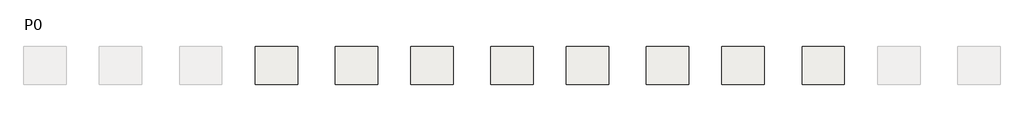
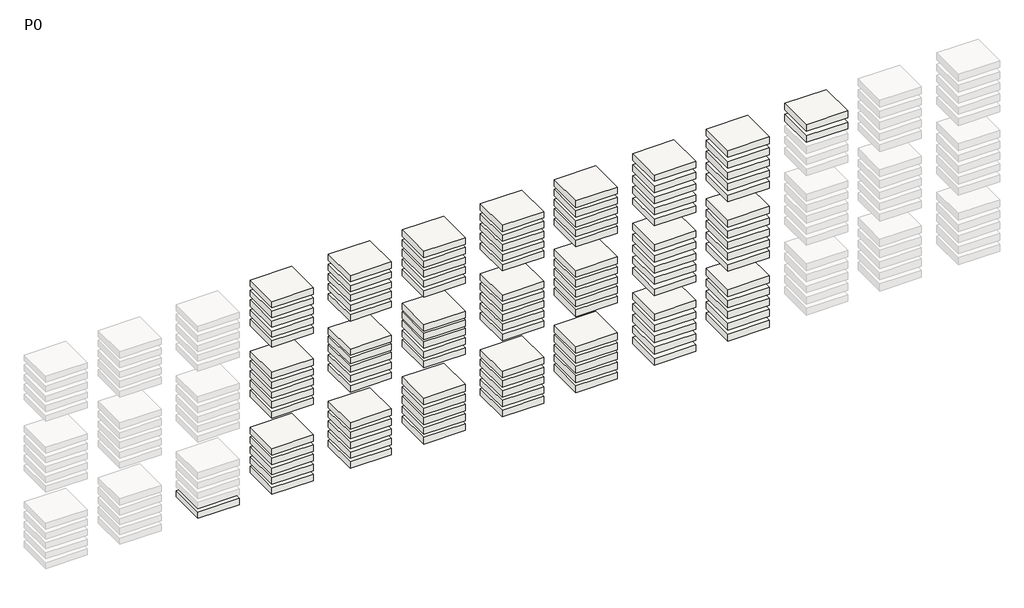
# One storey, part 9 of 11: 108 slabs.
"""IFC4 building model written with IfcOpenShell, lengths in millimetres."""

from ifc_helpers import new_model, si_unit, frame, origin, place, context, project, spatial, polyline, outline, extrude, element, save

model = new_model("IFC4")

# Units and contexts
model_context = context("Model", 3, world=origin())
ifc_project = project(units=[si_unit("LENGTHUNIT", "METRE", prefix="MILLI")], contexts=[model_context])

# Site, building, storey
site = spatial("IfcSite", under=ifc_project)
building = spatial("IfcBuilding", under=site)
storey = spatial("IfcBuildingStorey", under=building, Name="P0", Elevation=0.0)

# Slabs
placement = place(None, origin())
element("IfcSlab", 1, ObjectType="NNEH34 H7", at=placement, inside=storey, context=model_context, shape_type="SweptSolid", body=[
    extrude(outline(polyline([(251510.1564071, 1686.0689128), (251510.1564071, -1013.9310872), (248510.1564071, -1013.9310872), (248510.1564071, 1686.0689128), (251510.1564071, 1686.0689128)])), frame((0.0, 0.0, -21729.5323192), z_axis=(0.0, 0.0, 1.0), x_axis=(1.0, 0.0, 0.0)), (0.0, 0.0, 1.0), 468.0),
])
element("IfcSlab", 2, ObjectType="NNEH34 H8", at=placement, inside=storey, context=model_context, shape_type="SweptSolid", body=[
    extrude(outline(polyline([(256850.1564071, 1686.0689128), (256850.1564071, -1013.9310872), (253850.1564071, -1013.9310872), (253850.1564071, 1686.0689128), (256850.1564071, 1686.0689128)])), frame((0.0, 0.0, -7499.5323192), z_axis=(0.0, 0.0, 1.0), x_axis=(1.0, 0.0, 0.0)), (0.0, 0.0, 1.0), 478.0),
])
element("IfcSlab", 3, ObjectType="NNEH34 H8", at=placement, inside=storey, context=model_context, shape_type="SweptSolid", body=[
    extrude(outline(polyline([(256850.1564071, 1686.0689128), (256850.1564071, -1013.9310872), (253850.1564071, -1013.9310872), (253850.1564071, 1686.0689128), (256850.1564071, 1686.0689128)])), frame((0.0, 0.0, -8249.5323192), z_axis=(0.0, 0.0, 1.0), x_axis=(1.0, 0.0, 0.0)), (0.0, 0.0, 1.0), 478.0),
])
element("IfcSlab", 4, ObjectType="NNEH34 H8", at=placement, inside=storey, context=model_context, shape_type="SweptSolid", body=[
    extrude(outline(polyline([(256850.1564071, 1686.0689128), (256850.1564071, -1013.9310872), (253850.1564071, -1013.9310872), (253850.1564071, 1686.0689128), (256850.1564071, 1686.0689128)])), frame((0.0, 0.0, -8999.5323192), z_axis=(0.0, 0.0, 1.0), x_axis=(1.0, 0.0, 0.0)), (0.0, 0.0, 1.0), 478.0),
])
element("IfcSlab", 5, ObjectType="NNEH34 H8", at=placement, inside=storey, context=model_context, shape_type="SweptSolid", body=[
    extrude(outline(polyline([(256850.1564071, 1686.0689128), (256850.1564071, -1013.9310872), (253850.1564071, -1013.9310872), (253850.1564071, 1686.0689128), (256850.1564071, 1686.0689128)])), frame((0.0, 0.0, -9749.5323192), z_axis=(0.0, 0.0, 1.0), x_axis=(1.0, 0.0, 0.0)), (0.0, 0.0, 1.0), 478.0),
])
element("IfcSlab", 6, ObjectType="NNEH34 H8", at=placement, inside=storey, context=model_context, shape_type="SweptSolid", body=[
    extrude(outline(polyline([(256850.1564071, 1686.0689128), (256850.1564071, -1013.9310872), (253850.1564071, -1013.9310872), (253850.1564071, 1686.0689128), (256850.1564071, 1686.0689128)])), frame((0.0, 0.0, -10499.5324008), z_axis=(0.0, 0.0, 1.0), x_axis=(1.0, 0.0, 0.0)), (0.0, 0.0, 1.0), 478.0),
])
element("IfcSlab", 7, ObjectType="NNEH34 H9", at=placement, inside=storey, context=model_context, shape_type="SweptSolid", body=[
    extrude(outline(polyline([(256850.1564071, 1686.0689128), (256850.1564071, -1013.9310872), (253850.1564071, -1013.9310872), (253850.1564071, 1686.0689128), (256850.1564071, 1686.0689128)])), frame((0.0, 0.0, -12929.5322376), z_axis=(0.0, 0.0, 1.0), x_axis=(1.0, 0.0, 0.0)), (0.0, 0.0, 1.0), 488.0),
])
element("IfcSlab", 8, ObjectType="NNEH34 H9", at=placement, inside=storey, context=model_context, shape_type="SweptSolid", body=[
    extrude(outline(polyline([(256850.1564071, 1686.0689128), (256850.1564071, -1013.9310872), (253850.1564071, -1013.9310872), (253850.1564071, 1686.0689128), (256850.1564071, 1686.0689128)])), frame((0.0, 0.0, -13679.5322376), z_axis=(0.0, 0.0, 1.0), x_axis=(1.0, 0.0, 0.0)), (0.0, 0.0, 1.0), 488.0),
])
element("IfcSlab", 9, ObjectType="NNEH34 H9", at=placement, inside=storey, context=model_context, shape_type="SweptSolid", body=[
    extrude(outline(polyline([(256850.1564071, 1686.0689128), (256850.1564071, -1013.9310872), (253850.1564071, -1013.9310872), (253850.1564071, 1686.0689128), (256850.1564071, 1686.0689128)])), frame((0.0, 0.0, -14429.5322376), z_axis=(0.0, 0.0, 1.0), x_axis=(1.0, 0.0, 0.0)), (0.0, 0.0, 1.0), 488.0),
])
element("IfcSlab", 10, ObjectType="NNEH34 H9", at=placement, inside=storey, context=model_context, shape_type="SweptSolid", body=[
    extrude(outline(polyline([(256850.1564071, 1686.0689128), (256850.1564071, -1013.9310872), (253850.1564071, -1013.9310872), (253850.1564071, 1686.0689128), (256850.1564071, 1686.0689128)])), frame((0.0, 0.0, -15179.5322376), z_axis=(0.0, 0.0, 1.0), x_axis=(1.0, 0.0, 0.0)), (0.0, 0.0, 1.0), 488.0),
])
element("IfcSlab", 11, ObjectType="NNEH34 H9", at=placement, inside=storey, context=model_context, shape_type="SweptSolid", body=[
    extrude(outline(polyline([(256850.1564071, 1686.0689128), (256850.1564071, -1013.9310872), (253850.1564071, -1013.9310872), (253850.1564071, 1686.0689128), (256850.1564071, 1686.0689128)])), frame((0.0, 0.0, -15929.5322376), z_axis=(0.0, 0.0, 1.0), x_axis=(1.0, 0.0, 0.0)), (0.0, 0.0, 1.0), 488.0),
])
element("IfcSlab", 12, ObjectType="NNEH34 H10", at=placement, inside=storey, context=model_context, shape_type="SweptSolid", body=[
    extrude(outline(polyline([(256850.1564071, 1686.0689128), (256850.1564071, -1013.9310872), (253850.1564071, -1013.9310872), (253850.1564071, 1686.0689128), (256850.1564071, 1686.0689128)])), frame((0.0, 0.0, -18759.5323192), z_axis=(0.0, 0.0, 1.0), x_axis=(1.0, 0.0, 0.0)), (0.0, 0.0, 1.0), 498.0),
])
element("IfcSlab", 13, ObjectType="NNEH34 H10", at=placement, inside=storey, context=model_context, shape_type="SweptSolid", body=[
    extrude(outline(polyline([(256850.1564071, 1686.0689128), (256850.1564071, -1013.9310872), (253850.1564071, -1013.9310872), (253850.1564071, 1686.0689128), (256850.1564071, 1686.0689128)])), frame((0.0, 0.0, -19509.5323192), z_axis=(0.0, 0.0, 1.0), x_axis=(1.0, 0.0, 0.0)), (0.0, 0.0, 1.0), 498.0),
])
element("IfcSlab", 14, ObjectType="NNEH34 H10", at=placement, inside=storey, context=model_context, shape_type="SweptSolid", body=[
    extrude(outline(polyline([(256850.1564071, 1686.0689128), (256850.1564071, -1013.9310872), (253850.1564071, -1013.9310872), (253850.1564071, 1686.0689128), (256850.1564071, 1686.0689128)])), frame((0.0, 0.0, -20259.5323192), z_axis=(0.0, 0.0, 1.0), x_axis=(1.0, 0.0, 0.0)), (0.0, 0.0, 1.0), 498.0),
])
element("IfcSlab", 15, ObjectType="NNEH34 H10", at=placement, inside=storey, context=model_context, shape_type="SweptSolid", body=[
    extrude(outline(polyline([(256850.1564071, 1686.0689128), (256850.1564071, -1013.9310872), (253850.1564071, -1013.9310872), (253850.1564071, 1686.0689128), (256850.1564071, 1686.0689128)])), frame((0.0, 0.0, -21009.5323192), z_axis=(0.0, 0.0, 1.0), x_axis=(1.0, 0.0, 0.0)), (0.0, 0.0, 1.0), 498.0),
])
element("IfcSlab", 16, ObjectType="NNEH34 H10", at=placement, inside=storey, context=model_context, shape_type="SweptSolid", body=[
    extrude(outline(polyline([(256850.1564071, 1686.0689128), (256850.1564071, -1013.9310872), (253850.1564071, -1013.9310872), (253850.1564071, 1686.0689128), (256850.1564071, 1686.0689128)])), frame((0.0, 0.0, -21759.5323192), z_axis=(0.0, 0.0, 1.0), x_axis=(1.0, 0.0, 0.0)), (0.0, 0.0, 1.0), 498.0),
])
element("IfcSlab", 17, ObjectType="NNEH36 H5", at=placement, inside=storey, context=model_context, shape_type="SweptSolid", body=[
    extrude(outline(polyline([(262510.1564071, 1686.0689128), (262510.1564071, -1013.9310872), (259510.1564071, -1013.9310872), (259510.1564071, 1686.0689128), (262510.1564071, 1686.0689128)])), frame((0.0, 0.0, -7489.5324008), z_axis=(0.0, 0.0, 1.0), x_axis=(1.0, 0.0, 0.0)), (0.0, 0.0, 1.0), 468.0),
])
element("IfcSlab", 18, ObjectType="NNEH36 H5", at=placement, inside=storey, context=model_context, shape_type="SweptSolid", body=[
    extrude(outline(polyline([(262510.1564071, 1686.0689128), (262510.1564071, -1013.9310872), (259510.1564071, -1013.9310872), (259510.1564071, 1686.0689128), (262510.1564071, 1686.0689128)])), frame((0.0, 0.0, -8239.5323192), z_axis=(0.0, 0.0, 1.0), x_axis=(1.0, 0.0, 0.0)), (0.0, 0.0, 1.0), 468.0),
])
element("IfcSlab", 19, ObjectType="NNEH36 H5", at=placement, inside=storey, context=model_context, shape_type="SweptSolid", body=[
    extrude(outline(polyline([(262510.1564071, 1686.0689128), (262510.1564071, -1013.9310872), (259510.1564071, -1013.9310872), (259510.1564071, 1686.0689128), (262510.1564071, 1686.0689128)])), frame((0.0, 0.0, -8989.5323192), z_axis=(0.0, 0.0, 1.0), x_axis=(1.0, 0.0, 0.0)), (0.0, 0.0, 1.0), 468.0),
])
element("IfcSlab", 20, ObjectType="NNEH36 H5", at=placement, inside=storey, context=model_context, shape_type="SweptSolid", body=[
    extrude(outline(polyline([(262510.1564071, 1686.0689128), (262510.1564071, -1013.9310872), (259510.1564071, -1013.9310872), (259510.1564071, 1686.0689128), (262510.1564071, 1686.0689128)])), frame((0.0, 0.0, -9739.5323192), z_axis=(0.0, 0.0, 1.0), x_axis=(1.0, 0.0, 0.0)), (0.0, 0.0, 1.0), 468.0),
])
element("IfcSlab", 21, ObjectType="NNEH36 H5", at=placement, inside=storey, context=model_context, shape_type="SweptSolid", body=[
    extrude(outline(polyline([(262510.1564071, 1686.0689128), (262510.1564071, -1013.9310872), (259510.1564071, -1013.9310872), (259510.1564071, 1686.0689128), (262510.1564071, 1686.0689128)])), frame((0.0, 0.0, -10489.5324008), z_axis=(0.0, 0.0, 1.0), x_axis=(1.0, 0.0, 0.0)), (0.0, 0.0, 1.0), 468.0),
])
element("IfcSlab", 22, ObjectType="NNEH36 H6", at=placement, inside=storey, context=model_context, shape_type="SweptSolid", body=[
    extrude(outline(polyline([(262510.1564071, 1686.0689128), (262510.1564071, -1013.9310872), (259510.1564071, -1013.9310872), (259510.1564071, 1686.0689128), (262510.1564071, 1686.0689128)])), frame((0.0, 0.0, -13119.5322376), z_axis=(0.0, 0.0, 1.0), x_axis=(1.0, 0.0, 0.0)), (0.0, 0.0, 1.0), 478.0),
])
element("IfcSlab", 23, ObjectType="NNEH36 H6", at=placement, inside=storey, context=model_context, shape_type="SweptSolid", body=[
    extrude(outline(polyline([(262510.1564071, 1686.0689128), (262510.1564071, -1013.9310872), (259510.1564071, -1013.9310872), (259510.1564071, 1686.0689128), (262510.1564071, 1686.0689128)])), frame((0.0, 0.0, -13769.5322376), z_axis=(0.0, 0.0, 1.0), x_axis=(1.0, 0.0, 0.0)), (0.0, 0.0, 1.0), 478.0),
])
element("IfcSlab", 24, ObjectType="NNEH36 H6", at=placement, inside=storey, context=model_context, shape_type="SweptSolid", body=[
    extrude(outline(polyline([(262510.1564071, 1686.0689128), (262510.1564071, -1013.9310872), (259510.1564071, -1013.9310872), (259510.1564071, 1686.0689128), (262510.1564071, 1686.0689128)])), frame((0.0, 0.0, -14419.5322376), z_axis=(0.0, 0.0, 1.0), x_axis=(1.0, 0.0, 0.0)), (0.0, 0.0, 1.0), 478.0),
])
element("IfcSlab", 25, ObjectType="NNEH36 H6", at=placement, inside=storey, context=model_context, shape_type="SweptSolid", body=[
    extrude(outline(polyline([(262510.1564071, 1686.0689128), (262510.1564071, -1013.9310872), (259510.1564071, -1013.9310872), (259510.1564071, 1686.0689128), (262510.1564071, 1686.0689128)])), frame((0.0, 0.0, -15169.5322376), z_axis=(0.0, 0.0, 1.0), x_axis=(1.0, 0.0, 0.0)), (0.0, 0.0, 1.0), 478.0),
])
element("IfcSlab", 26, ObjectType="NNEH36 H6", at=placement, inside=storey, context=model_context, shape_type="SweptSolid", body=[
    extrude(outline(polyline([(262510.1564071, 1686.0689128), (262510.1564071, -1013.9310872), (259510.1564071, -1013.9310872), (259510.1564071, 1686.0689128), (262510.1564071, 1686.0689128)])), frame((0.0, 0.0, -15919.5322376), z_axis=(0.0, 0.0, 1.0), x_axis=(1.0, 0.0, 0.0)), (0.0, 0.0, 1.0), 478.0),
])
element("IfcSlab", 27, ObjectType="NNEH36 H7", at=placement, inside=storey, context=model_context, shape_type="SweptSolid", body=[
    extrude(outline(polyline([(262510.1564071, 1686.0689128), (262510.1564071, -1013.9310872), (259510.1564071, -1013.9310872), (259510.1564071, 1686.0689128), (262510.1564071, 1686.0689128)])), frame((0.0, 0.0, -18749.5323192), z_axis=(0.0, 0.0, 1.0), x_axis=(1.0, 0.0, 0.0)), (0.0, 0.0, 1.0), 488.0),
])
element("IfcSlab", 28, ObjectType="NNEH36 H7", at=placement, inside=storey, context=model_context, shape_type="SweptSolid", body=[
    extrude(outline(polyline([(262510.1564071, 1686.0689128), (262510.1564071, -1013.9310872), (259510.1564071, -1013.9310872), (259510.1564071, 1686.0689128), (262510.1564071, 1686.0689128)])), frame((0.0, 0.0, -19499.5323192), z_axis=(0.0, 0.0, 1.0), x_axis=(1.0, 0.0, 0.0)), (0.0, 0.0, 1.0), 488.0),
])
element("IfcSlab", 29, ObjectType="NNEH36 H7", at=placement, inside=storey, context=model_context, shape_type="SweptSolid", body=[
    extrude(outline(polyline([(262510.1564071, 1686.0689128), (262510.1564071, -1013.9310872), (259510.1564071, -1013.9310872), (259510.1564071, 1686.0689128), (262510.1564071, 1686.0689128)])), frame((0.0, 0.0, -20249.5323192), z_axis=(0.0, 0.0, 1.0), x_axis=(1.0, 0.0, 0.0)), (0.0, 0.0, 1.0), 488.0),
])
element("IfcSlab", 30, ObjectType="NNEH36 H7", at=placement, inside=storey, context=model_context, shape_type="SweptSolid", body=[
    extrude(outline(polyline([(262510.1564071, 1686.0689128), (262510.1564071, -1013.9310872), (259510.1564071, -1013.9310872), (259510.1564071, 1686.0689128), (262510.1564071, 1686.0689128)])), frame((0.0, 0.0, -20999.5323192), z_axis=(0.0, 0.0, 1.0), x_axis=(1.0, 0.0, 0.0)), (0.0, 0.0, 1.0), 488.0),
])
element("IfcSlab", 31, ObjectType="NNEH36 H7", at=placement, inside=storey, context=model_context, shape_type="SweptSolid", body=[
    extrude(outline(polyline([(262510.1564071, 1686.0689128), (262510.1564071, -1013.9310872), (259510.1564071, -1013.9310872), (259510.1564071, 1686.0689128), (262510.1564071, 1686.0689128)])), frame((0.0, 0.0, -21749.5323192), z_axis=(0.0, 0.0, 1.0), x_axis=(1.0, 0.0, 0.0)), (0.0, 0.0, 1.0), 488.0),
])
element("IfcSlab", 32, ObjectType="NNEH36 H8", at=placement, inside=storey, context=model_context, shape_type="SweptSolid", body=[
    extrude(outline(polyline([(267850.1564071, 1686.0689128), (267850.1564071, -1013.9310872), (264850.1564071, -1013.9310872), (264850.1564071, 1686.0689128), (267850.1564071, 1686.0689128)])), frame((0.0, 0.0, -7519.5323192), z_axis=(0.0, 0.0, 1.0), x_axis=(1.0, 0.0, 0.0)), (0.0, 0.0, 1.0), 498.0),
])
element("IfcSlab", 33, ObjectType="NNEH36 H8", at=placement, inside=storey, context=model_context, shape_type="SweptSolid", body=[
    extrude(outline(polyline([(267850.1564071, 1686.0689128), (267850.1564071, -1013.9310872), (264850.1564071, -1013.9310872), (264850.1564071, 1686.0689128), (267850.1564071, 1686.0689128)])), frame((0.0, 0.0, -8269.5323192), z_axis=(0.0, 0.0, 1.0), x_axis=(1.0, 0.0, 0.0)), (0.0, 0.0, 1.0), 498.0),
])
element("IfcSlab", 34, ObjectType="NNEH36 H8", at=placement, inside=storey, context=model_context, shape_type="SweptSolid", body=[
    extrude(outline(polyline([(267850.1564071, 1686.0689128), (267850.1564071, -1013.9310872), (264850.1564071, -1013.9310872), (264850.1564071, 1686.0689128), (267850.1564071, 1686.0689128)])), frame((0.0, 0.0, -9019.5323192), z_axis=(0.0, 0.0, 1.0), x_axis=(1.0, 0.0, 0.0)), (0.0, 0.0, 1.0), 498.0),
])
element("IfcSlab", 35, ObjectType="NNEH36 H8", at=placement, inside=storey, context=model_context, shape_type="SweptSolid", body=[
    extrude(outline(polyline([(267850.1564071, 1686.0689128), (267850.1564071, -1013.9310872), (264850.1564071, -1013.9310872), (264850.1564071, 1686.0689128), (267850.1564071, 1686.0689128)])), frame((0.0, 0.0, -9769.5323192), z_axis=(0.0, 0.0, 1.0), x_axis=(1.0, 0.0, 0.0)), (0.0, 0.0, 1.0), 498.0),
])
element("IfcSlab", 36, ObjectType="NNEH36 H8", at=placement, inside=storey, context=model_context, shape_type="SweptSolid", body=[
    extrude(outline(polyline([(267850.1564071, 1686.0689128), (267850.1564071, -1013.9310872), (264850.1564071, -1013.9310872), (264850.1564071, 1686.0689128), (267850.1564071, 1686.0689128)])), frame((0.0, 0.0, -10519.5324008), z_axis=(0.0, 0.0, 1.0), x_axis=(1.0, 0.0, 0.0)), (0.0, 0.0, 1.0), 498.0),
])
element("IfcSlab", 37, ObjectType="NNEH36 H9", at=placement, inside=storey, context=model_context, shape_type="SweptSolid", body=[
    extrude(outline(polyline([(267850.1564071, 1686.0689128), (267850.1564071, -1013.9310872), (264850.1564071, -1013.9310872), (264850.1564071, 1686.0689128), (267850.1564071, 1686.0689128)])), frame((0.0, 0.0, -13149.5322376), z_axis=(0.0, 0.0, 1.0), x_axis=(1.0, 0.0, 0.0)), (0.0, 0.0, 1.0), 508.0),
])
element("IfcSlab", 38, ObjectType="NNEH36 H9", at=placement, inside=storey, context=model_context, shape_type="SweptSolid", body=[
    extrude(outline(polyline([(267850.1564071, 1686.0689128), (267850.1564071, -1013.9310872), (264850.1564071, -1013.9310872), (264850.1564071, 1686.0689128), (267850.1564071, 1686.0689128)])), frame((0.0, 0.0, -13799.5322376), z_axis=(0.0, 0.0, 1.0), x_axis=(1.0, 0.0, 0.0)), (0.0, 0.0, 1.0), 508.0),
])
element("IfcSlab", 39, ObjectType="NNEH36 H9", at=placement, inside=storey, context=model_context, shape_type="SweptSolid", body=[
    extrude(outline(polyline([(267850.1564071, 1686.0689128), (267850.1564071, -1013.9310872), (264850.1564071, -1013.9310872), (264850.1564071, 1686.0689128), (267850.1564071, 1686.0689128)])), frame((0.0, 0.0, -14449.5322376), z_axis=(0.0, 0.0, 1.0), x_axis=(1.0, 0.0, 0.0)), (0.0, 0.0, 1.0), 508.0),
])
element("IfcSlab", 40, ObjectType="NNEH36 H9", at=placement, inside=storey, context=model_context, shape_type="SweptSolid", body=[
    extrude(outline(polyline([(267850.1564071, 1686.0689128), (267850.1564071, -1013.9310872), (264850.1564071, -1013.9310872), (264850.1564071, 1686.0689128), (267850.1564071, 1686.0689128)])), frame((0.0, 0.0, -15199.5322376), z_axis=(0.0, 0.0, 1.0), x_axis=(1.0, 0.0, 0.0)), (0.0, 0.0, 1.0), 508.0),
])
element("IfcSlab", 41, ObjectType="NNEH36 H9", at=placement, inside=storey, context=model_context, shape_type="SweptSolid", body=[
    extrude(outline(polyline([(267850.1564071, 1686.0689128), (267850.1564071, -1013.9310872), (264850.1564071, -1013.9310872), (264850.1564071, 1686.0689128), (267850.1564071, 1686.0689128)])), frame((0.0, 0.0, -15949.5322376), z_axis=(0.0, 0.0, 1.0), x_axis=(1.0, 0.0, 0.0)), (0.0, 0.0, 1.0), 508.0),
])
element("IfcSlab", 42, ObjectType="NNEH36 H10", at=placement, inside=storey, context=model_context, shape_type="SweptSolid", body=[
    extrude(outline(polyline([(267850.1564071, 1686.0689128), (267850.1564071, -1013.9310872), (264850.1564071, -1013.9310872), (264850.1564071, 1686.0689128), (267850.1564071, 1686.0689128)])), frame((0.0, 0.0, -18779.5323192), z_axis=(0.0, 0.0, 1.0), x_axis=(1.0, 0.0, 0.0)), (0.0, 0.0, 1.0), 518.0),
])
element("IfcSlab", 43, ObjectType="NNEH36 H10", at=placement, inside=storey, context=model_context, shape_type="SweptSolid", body=[
    extrude(outline(polyline([(267850.1564071, 1686.0689128), (267850.1564071, -1013.9310872), (264850.1564071, -1013.9310872), (264850.1564071, 1686.0689128), (267850.1564071, 1686.0689128)])), frame((0.0, 0.0, -19529.5323192), z_axis=(0.0, 0.0, 1.0), x_axis=(1.0, 0.0, 0.0)), (0.0, 0.0, 1.0), 518.0),
])
element("IfcSlab", 44, ObjectType="NNEH36 H10", at=placement, inside=storey, context=model_context, shape_type="SweptSolid", body=[
    extrude(outline(polyline([(267850.1564071, 1686.0689128), (267850.1564071, -1013.9310872), (264850.1564071, -1013.9310872), (264850.1564071, 1686.0689128), (267850.1564071, 1686.0689128)])), frame((0.0, 0.0, -20279.5323192), z_axis=(0.0, 0.0, 1.0), x_axis=(1.0, 0.0, 0.0)), (0.0, 0.0, 1.0), 518.0),
])
element("IfcSlab", 45, ObjectType="NNEH36 H10", at=placement, inside=storey, context=model_context, shape_type="SweptSolid", body=[
    extrude(outline(polyline([(267850.1564071, 1686.0689128), (267850.1564071, -1013.9310872), (264850.1564071, -1013.9310872), (264850.1564071, 1686.0689128), (267850.1564071, 1686.0689128)])), frame((0.0, 0.0, -21029.5323192), z_axis=(0.0, 0.0, 1.0), x_axis=(1.0, 0.0, 0.0)), (0.0, 0.0, 1.0), 518.0),
])
element("IfcSlab", 46, ObjectType="NNEH36 H10", at=placement, inside=storey, context=model_context, shape_type="SweptSolid", body=[
    extrude(outline(polyline([(267850.1564071, 1686.0689128), (267850.1564071, -1013.9310872), (264850.1564071, -1013.9310872), (264850.1564071, 1686.0689128), (267850.1564071, 1686.0689128)])), frame((0.0, 0.0, -21779.5323192), z_axis=(0.0, 0.0, 1.0), x_axis=(1.0, 0.0, 0.0)), (0.0, 0.0, 1.0), 518.0),
])
element("IfcSlab", 47, ObjectType="NNEH37 H5", at=placement, inside=storey, context=model_context, shape_type="SweptSolid", body=[
    extrude(outline(polyline([(273510.1564071, 1686.0689128), (273510.1564071, -1013.9310872), (270510.1564071, -1013.9310872), (270510.1564071, 1686.0689128), (273510.1564071, 1686.0689128)])), frame((0.0, 0.0, -7499.5324008), z_axis=(0.0, 0.0, 1.0), x_axis=(1.0, 0.0, 0.0)), (0.0, 0.0, 1.0), 478.0),
])
element("IfcSlab", 48, ObjectType="NNEH37 H5", at=placement, inside=storey, context=model_context, shape_type="SweptSolid", body=[
    extrude(outline(polyline([(273510.1564071, 1686.0689128), (273510.1564071, -1013.9310872), (270510.1564071, -1013.9310872), (270510.1564071, 1686.0689128), (273510.1564071, 1686.0689128)])), frame((0.0, 0.0, -8249.5323192), z_axis=(0.0, 0.0, 1.0), x_axis=(1.0, 0.0, 0.0)), (0.0, 0.0, 1.0), 478.0),
])
element("IfcSlab", 49, ObjectType="NNEH37 H5", at=placement, inside=storey, context=model_context, shape_type="SweptSolid", body=[
    extrude(outline(polyline([(273510.1564071, 1686.0689128), (273510.1564071, -1013.9310872), (270510.1564071, -1013.9310872), (270510.1564071, 1686.0689128), (273510.1564071, 1686.0689128)])), frame((0.0, 0.0, -8999.5323192), z_axis=(0.0, 0.0, 1.0), x_axis=(1.0, 0.0, 0.0)), (0.0, 0.0, 1.0), 478.0),
])
element("IfcSlab", 50, ObjectType="NNEH37 H5", at=placement, inside=storey, context=model_context, shape_type="SweptSolid", body=[
    extrude(outline(polyline([(273510.1564071, 1686.0689128), (273510.1564071, -1013.9310872), (270510.1564071, -1013.9310872), (270510.1564071, 1686.0689128), (273510.1564071, 1686.0689128)])), frame((0.0, 0.0, -9749.5323192), z_axis=(0.0, 0.0, 1.0), x_axis=(1.0, 0.0, 0.0)), (0.0, 0.0, 1.0), 478.0),
])
element("IfcSlab", 51, ObjectType="NNEH37 H5", at=placement, inside=storey, context=model_context, shape_type="SweptSolid", body=[
    extrude(outline(polyline([(273510.1564071, 1686.0689128), (273510.1564071, -1013.9310872), (270510.1564071, -1013.9310872), (270510.1564071, 1686.0689128), (273510.1564071, 1686.0689128)])), frame((0.0, 0.0, -10499.5324008), z_axis=(0.0, 0.0, 1.0), x_axis=(1.0, 0.0, 0.0)), (0.0, 0.0, 1.0), 478.0),
])
element("IfcSlab", 52, ObjectType="NNEH37 H6", at=placement, inside=storey, context=model_context, shape_type="SweptSolid", body=[
    extrude(outline(polyline([(273510.1564071, 1686.0689128), (273510.1564071, -1013.9310872), (270510.1564071, -1013.9310872), (270510.1564071, 1686.0689128), (273510.1564071, 1686.0689128)])), frame((0.0, 0.0, -12841.5322371), z_axis=(0.0, 0.0, 1.0), x_axis=(1.0, 0.0, 0.0)), (0.0, 0.0, 1.0), 488.0),
])
element("IfcSlab", 53, ObjectType="NNEH37 H6", at=placement, inside=storey, context=model_context, shape_type="SweptSolid", body=[
    extrude(outline(polyline([(273510.1564071, 1686.0689128), (273510.1564071, -1013.9310872), (270510.1564071, -1013.9310872), (270510.1564071, 1686.0689128), (273510.1564071, 1686.0689128)])), frame((0.0, 0.0, -13591.5322371), z_axis=(0.0, 0.0, 1.0), x_axis=(1.0, 0.0, 0.0)), (0.0, 0.0, 1.0), 488.0),
])
element("IfcSlab", 54, ObjectType="NNEH37 H6", at=placement, inside=storey, context=model_context, shape_type="SweptSolid", body=[
    extrude(outline(polyline([(273510.1564071, 1686.0689128), (273510.1564071, -1013.9310872), (270510.1564071, -1013.9310872), (270510.1564071, 1686.0689128), (273510.1564071, 1686.0689128)])), frame((0.0, 0.0, -14341.5322371), z_axis=(0.0, 0.0, 1.0), x_axis=(1.0, 0.0, 0.0)), (0.0, 0.0, 1.0), 488.0),
])
element("IfcSlab", 55, ObjectType="NNEH37 H6", at=placement, inside=storey, context=model_context, shape_type="SweptSolid", body=[
    extrude(outline(polyline([(273510.1564071, 1686.0689128), (273510.1564071, -1013.9310872), (270510.1564071, -1013.9310872), (270510.1564071, 1686.0689128), (273510.1564071, 1686.0689128)])), frame((0.0, 0.0, -15091.5322371), z_axis=(0.0, 0.0, 1.0), x_axis=(1.0, 0.0, 0.0)), (0.0, 0.0, 1.0), 488.0),
])
element("IfcSlab", 56, ObjectType="NNEH37 H6", at=placement, inside=storey, context=model_context, shape_type="SweptSolid", body=[
    extrude(outline(polyline([(273510.1564071, 1686.0689128), (273510.1564071, -1013.9310872), (270510.1564071, -1013.9310872), (270510.1564071, 1686.0689128), (273510.1564071, 1686.0689128)])), frame((0.0, 0.0, -15841.5322371), z_axis=(0.0, 0.0, 1.0), x_axis=(1.0, 0.0, 0.0)), (0.0, 0.0, 1.0), 488.0),
])
element("IfcSlab", 57, ObjectType="NNEH37 H7", at=placement, inside=storey, context=model_context, shape_type="SweptSolid", body=[
    extrude(outline(polyline([(273510.1564071, 1686.0689128), (273510.1564071, -1013.9310872), (270510.1564071, -1013.9310872), (270510.1564071, 1686.0689128), (273510.1564071, 1686.0689128)])), frame((0.0, 0.0, -18659.5323192), z_axis=(0.0, 0.0, 1.0), x_axis=(1.0, 0.0, 0.0)), (0.0, 0.0, 1.0), 498.0),
])
element("IfcSlab", 58, ObjectType="NNEH37 H7", at=placement, inside=storey, context=model_context, shape_type="SweptSolid", body=[
    extrude(outline(polyline([(273510.1564071, 1686.0689128), (273510.1564071, -1013.9310872), (270510.1564071, -1013.9310872), (270510.1564071, 1686.0689128), (273510.1564071, 1686.0689128)])), frame((0.0, 0.0, -19409.5323192), z_axis=(0.0, 0.0, 1.0), x_axis=(1.0, 0.0, 0.0)), (0.0, 0.0, 1.0), 498.0),
])
element("IfcSlab", 59, ObjectType="NNEH37 H7", at=placement, inside=storey, context=model_context, shape_type="SweptSolid", body=[
    extrude(outline(polyline([(273510.1564071, 1686.0689128), (273510.1564071, -1013.9310872), (270510.1564071, -1013.9310872), (270510.1564071, 1686.0689128), (273510.1564071, 1686.0689128)])), frame((0.0, 0.0, -20159.5323192), z_axis=(0.0, 0.0, 1.0), x_axis=(1.0, 0.0, 0.0)), (0.0, 0.0, 1.0), 498.0),
])
element("IfcSlab", 60, ObjectType="NNEH37 H7", at=placement, inside=storey, context=model_context, shape_type="SweptSolid", body=[
    extrude(outline(polyline([(273510.1564071, 1686.0689128), (273510.1564071, -1013.9310872), (270510.1564071, -1013.9310872), (270510.1564071, 1686.0689128), (273510.1564071, 1686.0689128)])), frame((0.0, 0.0, -20909.5323192), z_axis=(0.0, 0.0, 1.0), x_axis=(1.0, 0.0, 0.0)), (0.0, 0.0, 1.0), 498.0),
])
element("IfcSlab", 61, ObjectType="NNEH37 H7", at=placement, inside=storey, context=model_context, shape_type="SweptSolid", body=[
    extrude(outline(polyline([(273510.1564071, 1686.0689128), (273510.1564071, -1013.9310872), (270510.1564071, -1013.9310872), (270510.1564071, 1686.0689128), (273510.1564071, 1686.0689128)])), frame((0.0, 0.0, -21659.5323192), z_axis=(0.0, 0.0, 1.0), x_axis=(1.0, 0.0, 0.0)), (0.0, 0.0, 1.0), 498.0),
])
element("IfcSlab", 62, ObjectType="NNEH37 H8", at=placement, inside=storey, context=model_context, shape_type="SweptSolid", body=[
    extrude(outline(polyline([(278850.1564071, 1686.0689128), (278850.1564071, -1013.9310872), (275850.1564071, -1013.9310872), (275850.1564071, 1686.0689128), (278850.1564071, 1686.0689128)])), frame((0.0, 0.0, -7529.5323192), z_axis=(0.0, 0.0, 1.0), x_axis=(1.0, 0.0, 0.0)), (0.0, 0.0, 1.0), 508.0),
])
element("IfcSlab", 63, ObjectType="NNEH37 H8", at=placement, inside=storey, context=model_context, shape_type="SweptSolid", body=[
    extrude(outline(polyline([(278850.1564071, 1686.0689128), (278850.1564071, -1013.9310872), (275850.1564071, -1013.9310872), (275850.1564071, 1686.0689128), (278850.1564071, 1686.0689128)])), frame((0.0, 0.0, -8279.5323192), z_axis=(0.0, 0.0, 1.0), x_axis=(1.0, 0.0, 0.0)), (0.0, 0.0, 1.0), 508.0),
])
element("IfcSlab", 64, ObjectType="NNEH37 H8", at=placement, inside=storey, context=model_context, shape_type="SweptSolid", body=[
    extrude(outline(polyline([(278850.1564071, 1686.0689128), (278850.1564071, -1013.9310872), (275850.1564071, -1013.9310872), (275850.1564071, 1686.0689128), (278850.1564071, 1686.0689128)])), frame((0.0, 0.0, -9029.5323192), z_axis=(0.0, 0.0, 1.0), x_axis=(1.0, 0.0, 0.0)), (0.0, 0.0, 1.0), 508.0),
])
element("IfcSlab", 65, ObjectType="NNEH37 H8", at=placement, inside=storey, context=model_context, shape_type="SweptSolid", body=[
    extrude(outline(polyline([(278850.1564071, 1686.0689128), (278850.1564071, -1013.9310872), (275850.1564071, -1013.9310872), (275850.1564071, 1686.0689128), (278850.1564071, 1686.0689128)])), frame((0.0, 0.0, -9779.5323192), z_axis=(0.0, 0.0, 1.0), x_axis=(1.0, 0.0, 0.0)), (0.0, 0.0, 1.0), 508.0),
])
element("IfcSlab", 66, ObjectType="NNEH37 H8", at=placement, inside=storey, context=model_context, shape_type="SweptSolid", body=[
    extrude(outline(polyline([(278850.1564071, 1686.0689128), (278850.1564071, -1013.9310872), (275850.1564071, -1013.9310872), (275850.1564071, 1686.0689128), (278850.1564071, 1686.0689128)])), frame((0.0, 0.0, -10529.5324008), z_axis=(0.0, 0.0, 1.0), x_axis=(1.0, 0.0, 0.0)), (0.0, 0.0, 1.0), 508.0),
])
element("IfcSlab", 67, ObjectType="NNEH37 H9", at=placement, inside=storey, context=model_context, shape_type="SweptSolid", body=[
    extrude(outline(polyline([(278850.1564071, 1686.0689128), (278850.1564071, -1013.9310872), (275850.1564071, -1013.9310872), (275850.1564071, 1686.0689128), (278850.1564071, 1686.0689128)])), frame((0.0, 0.0, -12871.5322371), z_axis=(0.0, 0.0, 1.0), x_axis=(1.0, 0.0, 0.0)), (0.0, 0.0, 1.0), 518.0),
])
element("IfcSlab", 68, ObjectType="NNEH37 H9", at=placement, inside=storey, context=model_context, shape_type="SweptSolid", body=[
    extrude(outline(polyline([(278850.1564071, 1686.0689128), (278850.1564071, -1013.9310872), (275850.1564071, -1013.9310872), (275850.1564071, 1686.0689128), (278850.1564071, 1686.0689128)])), frame((0.0, 0.0, -13621.5322371), z_axis=(0.0, 0.0, 1.0), x_axis=(1.0, 0.0, 0.0)), (0.0, 0.0, 1.0), 518.0),
])
element("IfcSlab", 69, ObjectType="NNEH37 H9", at=placement, inside=storey, context=model_context, shape_type="SweptSolid", body=[
    extrude(outline(polyline([(278850.1564071, 1686.0689128), (278850.1564071, -1013.9310872), (275850.1564071, -1013.9310872), (275850.1564071, 1686.0689128), (278850.1564071, 1686.0689128)])), frame((0.0, 0.0, -14371.5322371), z_axis=(0.0, 0.0, 1.0), x_axis=(1.0, 0.0, 0.0)), (0.0, 0.0, 1.0), 518.0),
])
element("IfcSlab", 70, ObjectType="NNEH37 H9", at=placement, inside=storey, context=model_context, shape_type="SweptSolid", body=[
    extrude(outline(polyline([(278850.1564071, 1686.0689128), (278850.1564071, -1013.9310872), (275850.1564071, -1013.9310872), (275850.1564071, 1686.0689128), (278850.1564071, 1686.0689128)])), frame((0.0, 0.0, -15121.5322371), z_axis=(0.0, 0.0, 1.0), x_axis=(1.0, 0.0, 0.0)), (0.0, 0.0, 1.0), 518.0),
])
element("IfcSlab", 71, ObjectType="NNEH37 H9", at=placement, inside=storey, context=model_context, shape_type="SweptSolid", body=[
    extrude(outline(polyline([(278850.1564071, 1686.0689128), (278850.1564071, -1013.9310872), (275850.1564071, -1013.9310872), (275850.1564071, 1686.0689128), (278850.1564071, 1686.0689128)])), frame((0.0, 0.0, -15871.5322371), z_axis=(0.0, 0.0, 1.0), x_axis=(1.0, 0.0, 0.0)), (0.0, 0.0, 1.0), 518.0),
])
element("IfcSlab", 72, ObjectType="NNEH37 H10", at=placement, inside=storey, context=model_context, shape_type="SweptSolid", body=[
    extrude(outline(polyline([(278850.1564071, 1686.0689128), (278850.1564071, -1013.9310872), (275850.1564071, -1013.9310872), (275850.1564071, 1686.0689128), (278850.1564071, 1686.0689128)])), frame((0.0, 0.0, -18689.5323192), z_axis=(0.0, 0.0, 1.0), x_axis=(1.0, 0.0, 0.0)), (0.0, 0.0, 1.0), 528.0),
])
element("IfcSlab", 73, ObjectType="NNEH37 H10", at=placement, inside=storey, context=model_context, shape_type="SweptSolid", body=[
    extrude(outline(polyline([(278850.1564071, 1686.0689128), (278850.1564071, -1013.9310872), (275850.1564071, -1013.9310872), (275850.1564071, 1686.0689128), (278850.1564071, 1686.0689128)])), frame((0.0, 0.0, -19439.5323192), z_axis=(0.0, 0.0, 1.0), x_axis=(1.0, 0.0, 0.0)), (0.0, 0.0, 1.0), 528.0),
])
element("IfcSlab", 74, ObjectType="NNEH37 H10", at=placement, inside=storey, context=model_context, shape_type="SweptSolid", body=[
    extrude(outline(polyline([(278850.1564071, 1686.0689128), (278850.1564071, -1013.9310872), (275850.1564071, -1013.9310872), (275850.1564071, 1686.0689128), (278850.1564071, 1686.0689128)])), frame((0.0, 0.0, -20189.5323192), z_axis=(0.0, 0.0, 1.0), x_axis=(1.0, 0.0, 0.0)), (0.0, 0.0, 1.0), 528.0),
])
element("IfcSlab", 75, ObjectType="NNEH37 H10", at=placement, inside=storey, context=model_context, shape_type="SweptSolid", body=[
    extrude(outline(polyline([(278850.1564071, 1686.0689128), (278850.1564071, -1013.9310872), (275850.1564071, -1013.9310872), (275850.1564071, 1686.0689128), (278850.1564071, 1686.0689128)])), frame((0.0, 0.0, -20939.5323192), z_axis=(0.0, 0.0, 1.0), x_axis=(1.0, 0.0, 0.0)), (0.0, 0.0, 1.0), 528.0),
])
element("IfcSlab", 76, ObjectType="NNEH37 H10", at=placement, inside=storey, context=model_context, shape_type="SweptSolid", body=[
    extrude(outline(polyline([(278850.1564071, 1686.0689128), (278850.1564071, -1013.9310872), (275850.1564071, -1013.9310872), (275850.1564071, 1686.0689128), (278850.1564071, 1686.0689128)])), frame((0.0, 0.0, -21689.5323192), z_axis=(0.0, 0.0, 1.0), x_axis=(1.0, 0.0, 0.0)), (0.0, 0.0, 1.0), 528.0),
])
element("IfcSlab", 77, ObjectType="NNEH38 H5", at=placement, inside=storey, context=model_context, shape_type="SweptSolid", body=[
    extrude(outline(polyline([(284510.1564071, 1686.0689128), (284510.1564071, -1013.9310872), (281510.1564071, -1013.9310872), (281510.1564071, 1686.0689128), (284510.1564071, 1686.0689128)])), frame((0.0, 0.0, -7509.5324008), z_axis=(0.0, 0.0, 1.0), x_axis=(1.0, 0.0, 0.0)), (0.0, 0.0, 1.0), 488.0),
])
element("IfcSlab", 78, ObjectType="NNEH38 H5", at=placement, inside=storey, context=model_context, shape_type="SweptSolid", body=[
    extrude(outline(polyline([(284510.1564071, 1686.0689128), (284510.1564071, -1013.9310872), (281510.1564071, -1013.9310872), (281510.1564071, 1686.0689128), (284510.1564071, 1686.0689128)])), frame((0.0, 0.0, -8359.5323192), z_axis=(0.0, 0.0, 1.0), x_axis=(1.0, 0.0, 0.0)), (0.0, 0.0, 1.0), 488.0),
])
element("IfcSlab", 79, ObjectType="NNEH38 H5", at=placement, inside=storey, context=model_context, shape_type="SweptSolid", body=[
    extrude(outline(polyline([(284510.1564071, 1686.0689128), (284510.1564071, -1013.9310872), (281510.1564071, -1013.9310872), (281510.1564071, 1686.0689128), (284510.1564071, 1686.0689128)])), frame((0.0, 0.0, -9209.5323192), z_axis=(0.0, 0.0, 1.0), x_axis=(1.0, 0.0, 0.0)), (0.0, 0.0, 1.0), 488.0),
])
element("IfcSlab", 80, ObjectType="NNEH38 H5", at=placement, inside=storey, context=model_context, shape_type="SweptSolid", body=[
    extrude(outline(polyline([(284510.1564071, 1686.0689128), (284510.1564071, -1013.9310872), (281510.1564071, -1013.9310872), (281510.1564071, 1686.0689128), (284510.1564071, 1686.0689128)])), frame((0.0, 0.0, -10059.5323192), z_axis=(0.0, 0.0, 1.0), x_axis=(1.0, 0.0, 0.0)), (0.0, 0.0, 1.0), 488.0),
])
element("IfcSlab", 81, ObjectType="NNEH38 H5", at=placement, inside=storey, context=model_context, shape_type="SweptSolid", body=[
    extrude(outline(polyline([(284510.1564071, 1686.0689128), (284510.1564071, -1013.9310872), (281510.1564071, -1013.9310872), (281510.1564071, 1686.0689128), (284510.1564071, 1686.0689128)])), frame((0.0, 0.0, -10909.5324008), z_axis=(0.0, 0.0, 1.0), x_axis=(1.0, 0.0, 0.0)), (0.0, 0.0, 1.0), 488.0),
])
element("IfcSlab", 82, ObjectType="NNEH38 H6", at=placement, inside=storey, context=model_context, shape_type="SweptSolid", body=[
    extrude(outline(polyline([(284510.1564071, 1686.0689128), (284510.1564071, -1013.9310872), (281510.1564071, -1013.9310872), (281510.1564071, 1686.0689128), (284510.1564071, 1686.0689128)])), frame((0.0, 0.0, -12839.5322376), z_axis=(0.0, 0.0, 1.0), x_axis=(1.0, 0.0, 0.0)), (0.0, 0.0, 1.0), 498.0),
])
element("IfcSlab", 83, ObjectType="NNEH38 H6", at=placement, inside=storey, context=model_context, shape_type="SweptSolid", body=[
    extrude(outline(polyline([(284510.1564071, 1686.0689128), (284510.1564071, -1013.9310872), (281510.1564071, -1013.9310872), (281510.1564071, 1686.0689128), (284510.1564071, 1686.0689128)])), frame((0.0, 0.0, -13689.5322376), z_axis=(0.0, 0.0, 1.0), x_axis=(1.0, 0.0, 0.0)), (0.0, 0.0, 1.0), 498.0),
])
element("IfcSlab", 84, ObjectType="NNEH38 H6", at=placement, inside=storey, context=model_context, shape_type="SweptSolid", body=[
    extrude(outline(polyline([(284510.1564071, 1686.0689128), (284510.1564071, -1013.9310872), (281510.1564071, -1013.9310872), (281510.1564071, 1686.0689128), (284510.1564071, 1686.0689128)])), frame((0.0, 0.0, -14539.5322376), z_axis=(0.0, 0.0, 1.0), x_axis=(1.0, 0.0, 0.0)), (0.0, 0.0, 1.0), 498.0),
])
element("IfcSlab", 85, ObjectType="NNEH38 H6", at=placement, inside=storey, context=model_context, shape_type="SweptSolid", body=[
    extrude(outline(polyline([(284510.1564071, 1686.0689128), (284510.1564071, -1013.9310872), (281510.1564071, -1013.9310872), (281510.1564071, 1686.0689128), (284510.1564071, 1686.0689128)])), frame((0.0, 0.0, -15389.5322376), z_axis=(0.0, 0.0, 1.0), x_axis=(1.0, 0.0, 0.0)), (0.0, 0.0, 1.0), 498.0),
])
element("IfcSlab", 86, ObjectType="NNEH38 H6", at=placement, inside=storey, context=model_context, shape_type="SweptSolid", body=[
    extrude(outline(polyline([(284510.1564071, 1686.0689128), (284510.1564071, -1013.9310872), (281510.1564071, -1013.9310872), (281510.1564071, 1686.0689128), (284510.1564071, 1686.0689128)])), frame((0.0, 0.0, -16239.5322376), z_axis=(0.0, 0.0, 1.0), x_axis=(1.0, 0.0, 0.0)), (0.0, 0.0, 1.0), 498.0),
])
element("IfcSlab", 87, ObjectType="NNEH38 H7", at=placement, inside=storey, context=model_context, shape_type="SweptSolid", body=[
    extrude(outline(polyline([(284510.1564071, 1686.0689128), (284510.1564071, -1013.9310872), (281510.1564071, -1013.9310872), (281510.1564071, 1686.0689128), (284510.1564071, 1686.0689128)])), frame((0.0, 0.0, -18169.5323192), z_axis=(0.0, 0.0, 1.0), x_axis=(1.0, 0.0, 0.0)), (0.0, 0.0, 1.0), 508.0),
])
element("IfcSlab", 88, ObjectType="NNEH38 H7", at=placement, inside=storey, context=model_context, shape_type="SweptSolid", body=[
    extrude(outline(polyline([(284510.1564071, 1686.0689128), (284510.1564071, -1013.9310872), (281510.1564071, -1013.9310872), (281510.1564071, 1686.0689128), (284510.1564071, 1686.0689128)])), frame((0.0, 0.0, -19019.5323192), z_axis=(0.0, 0.0, 1.0), x_axis=(1.0, 0.0, 0.0)), (0.0, 0.0, 1.0), 508.0),
])
element("IfcSlab", 89, ObjectType="NNEH38 H7", at=placement, inside=storey, context=model_context, shape_type="SweptSolid", body=[
    extrude(outline(polyline([(284510.1564071, 1686.0689128), (284510.1564071, -1013.9310872), (281510.1564071, -1013.9310872), (281510.1564071, 1686.0689128), (284510.1564071, 1686.0689128)])), frame((0.0, 0.0, -19869.5323192), z_axis=(0.0, 0.0, 1.0), x_axis=(1.0, 0.0, 0.0)), (0.0, 0.0, 1.0), 508.0),
])
element("IfcSlab", 90, ObjectType="NNEH38 H7", at=placement, inside=storey, context=model_context, shape_type="SweptSolid", body=[
    extrude(outline(polyline([(284510.1564071, 1686.0689128), (284510.1564071, -1013.9310872), (281510.1564071, -1013.9310872), (281510.1564071, 1686.0689128), (284510.1564071, 1686.0689128)])), frame((0.0, 0.0, -20719.5323192), z_axis=(0.0, 0.0, 1.0), x_axis=(1.0, 0.0, 0.0)), (0.0, 0.0, 1.0), 508.0),
])
element("IfcSlab", 91, ObjectType="NNEH38 H7", at=placement, inside=storey, context=model_context, shape_type="SweptSolid", body=[
    extrude(outline(polyline([(284510.1564071, 1686.0689128), (284510.1564071, -1013.9310872), (281510.1564071, -1013.9310872), (281510.1564071, 1686.0689128), (284510.1564071, 1686.0689128)])), frame((0.0, 0.0, -21569.5323192), z_axis=(0.0, 0.0, 1.0), x_axis=(1.0, 0.0, 0.0)), (0.0, 0.0, 1.0), 508.0),
])
element("IfcSlab", 92, ObjectType="NNEH38 H8", at=placement, inside=storey, context=model_context, shape_type="SweptSolid", body=[
    extrude(outline(polyline([(289850.1564071, 1686.0689128), (289850.1564071, -1013.9310872), (286850.1564071, -1013.9310872), (286850.1564071, 1686.0689128), (289850.1564071, 1686.0689128)])), frame((0.0, 0.0, -7539.5323192), z_axis=(0.0, 0.0, 1.0), x_axis=(1.0, 0.0, 0.0)), (0.0, 0.0, 1.0), 518.0),
])
element("IfcSlab", 93, ObjectType="NNEH38 H8", at=placement, inside=storey, context=model_context, shape_type="SweptSolid", body=[
    extrude(outline(polyline([(289850.1564071, 1686.0689128), (289850.1564071, -1013.9310872), (286850.1564071, -1013.9310872), (286850.1564071, 1686.0689128), (289850.1564071, 1686.0689128)])), frame((0.0, 0.0, -8389.5323192), z_axis=(0.0, 0.0, 1.0), x_axis=(1.0, 0.0, 0.0)), (0.0, 0.0, 1.0), 518.0),
])
element("IfcSlab", 94, ObjectType="NNEH38 H8", at=placement, inside=storey, context=model_context, shape_type="SweptSolid", body=[
    extrude(outline(polyline([(289850.1564071, 1686.0689128), (289850.1564071, -1013.9310872), (286850.1564071, -1013.9310872), (286850.1564071, 1686.0689128), (289850.1564071, 1686.0689128)])), frame((0.0, 0.0, -9239.5323192), z_axis=(0.0, 0.0, 1.0), x_axis=(1.0, 0.0, 0.0)), (0.0, 0.0, 1.0), 518.0),
])
element("IfcSlab", 95, ObjectType="NNEH38 H8", at=placement, inside=storey, context=model_context, shape_type="SweptSolid", body=[
    extrude(outline(polyline([(289850.1564071, 1686.0689128), (289850.1564071, -1013.9310872), (286850.1564071, -1013.9310872), (286850.1564071, 1686.0689128), (289850.1564071, 1686.0689128)])), frame((0.0, 0.0, -10089.5323192), z_axis=(0.0, 0.0, 1.0), x_axis=(1.0, 0.0, 0.0)), (0.0, 0.0, 1.0), 518.0),
])
element("IfcSlab", 96, ObjectType="NNEH38 H8", at=placement, inside=storey, context=model_context, shape_type="SweptSolid", body=[
    extrude(outline(polyline([(289850.1564071, 1686.0689128), (289850.1564071, -1013.9310872), (286850.1564071, -1013.9310872), (286850.1564071, 1686.0689128), (289850.1564071, 1686.0689128)])), frame((0.0, 0.0, -10939.5324008), z_axis=(0.0, 0.0, 1.0), x_axis=(1.0, 0.0, 0.0)), (0.0, 0.0, 1.0), 518.0),
])
element("IfcSlab", 97, ObjectType="NNEH38 H9", at=placement, inside=storey, context=model_context, shape_type="SweptSolid", body=[
    extrude(outline(polyline([(289850.1564071, 1686.0689128), (289850.1564071, -1013.9310872), (286850.1564071, -1013.9310872), (286850.1564071, 1686.0689128), (289850.1564071, 1686.0689128)])), frame((0.0, 0.0, -12869.5322376), z_axis=(0.0, 0.0, 1.0), x_axis=(1.0, 0.0, 0.0)), (0.0, 0.0, 1.0), 528.0),
])
element("IfcSlab", 98, ObjectType="NNEH38 H9", at=placement, inside=storey, context=model_context, shape_type="SweptSolid", body=[
    extrude(outline(polyline([(289850.1564071, 1686.0689128), (289850.1564071, -1013.9310872), (286850.1564071, -1013.9310872), (286850.1564071, 1686.0689128), (289850.1564071, 1686.0689128)])), frame((0.0, 0.0, -13719.5322376), z_axis=(0.0, 0.0, 1.0), x_axis=(1.0, 0.0, 0.0)), (0.0, 0.0, 1.0), 528.0),
])
element("IfcSlab", 99, ObjectType="NNEH38 H9", at=placement, inside=storey, context=model_context, shape_type="SweptSolid", body=[
    extrude(outline(polyline([(289850.1564071, 1686.0689128), (289850.1564071, -1013.9310872), (286850.1564071, -1013.9310872), (286850.1564071, 1686.0689128), (289850.1564071, 1686.0689128)])), frame((0.0, 0.0, -14569.5322376), z_axis=(0.0, 0.0, 1.0), x_axis=(1.0, 0.0, 0.0)), (0.0, 0.0, 1.0), 528.0),
])
element("IfcSlab", 100, ObjectType="NNEH38 H9", at=placement, inside=storey, context=model_context, shape_type="SweptSolid", body=[
    extrude(outline(polyline([(289850.1564071, 1686.0689128), (289850.1564071, -1013.9310872), (286850.1564071, -1013.9310872), (286850.1564071, 1686.0689128), (289850.1564071, 1686.0689128)])), frame((0.0, 0.0, -15419.5322376), z_axis=(0.0, 0.0, 1.0), x_axis=(1.0, 0.0, 0.0)), (0.0, 0.0, 1.0), 528.0),
])
element("IfcSlab", 101, ObjectType="NNEH38 H9", at=placement, inside=storey, context=model_context, shape_type="SweptSolid", body=[
    extrude(outline(polyline([(289850.1564071, 1686.0689128), (289850.1564071, -1013.9310872), (286850.1564071, -1013.9310872), (286850.1564071, 1686.0689128), (289850.1564071, 1686.0689128)])), frame((0.0, 0.0, -16269.5322376), z_axis=(0.0, 0.0, 1.0), x_axis=(1.0, 0.0, 0.0)), (0.0, 0.0, 1.0), 528.0),
])
element("IfcSlab", 102, ObjectType="NNEH38 H10", at=placement, inside=storey, context=model_context, shape_type="SweptSolid", body=[
    extrude(outline(polyline([(289850.1564071, 1686.0689128), (289850.1564071, -1013.9310872), (286850.1564071, -1013.9310872), (286850.1564071, 1686.0689128), (289850.1564071, 1686.0689128)])), frame((0.0, 0.0, -18199.5323192), z_axis=(0.0, 0.0, 1.0), x_axis=(1.0, 0.0, 0.0)), (0.0, 0.0, 1.0), 538.0),
])
element("IfcSlab", 103, ObjectType="NNEH38 H10", at=placement, inside=storey, context=model_context, shape_type="SweptSolid", body=[
    extrude(outline(polyline([(289850.1564071, 1686.0689128), (289850.1564071, -1013.9310872), (286850.1564071, -1013.9310872), (286850.1564071, 1686.0689128), (289850.1564071, 1686.0689128)])), frame((0.0, 0.0, -19049.5323192), z_axis=(0.0, 0.0, 1.0), x_axis=(1.0, 0.0, 0.0)), (0.0, 0.0, 1.0), 538.0),
])
element("IfcSlab", 104, ObjectType="NNEH38 H10", at=placement, inside=storey, context=model_context, shape_type="SweptSolid", body=[
    extrude(outline(polyline([(289850.1564071, 1686.0689128), (289850.1564071, -1013.9310872), (286850.1564071, -1013.9310872), (286850.1564071, 1686.0689128), (289850.1564071, 1686.0689128)])), frame((0.0, 0.0, -19899.5323192), z_axis=(0.0, 0.0, 1.0), x_axis=(1.0, 0.0, 0.0)), (0.0, 0.0, 1.0), 538.0),
])
element("IfcSlab", 105, ObjectType="NNEH38 H10", at=placement, inside=storey, context=model_context, shape_type="SweptSolid", body=[
    extrude(outline(polyline([(289850.1564071, 1686.0689128), (289850.1564071, -1013.9310872), (286850.1564071, -1013.9310872), (286850.1564071, 1686.0689128), (289850.1564071, 1686.0689128)])), frame((0.0, 0.0, -20749.5323192), z_axis=(0.0, 0.0, 1.0), x_axis=(1.0, 0.0, 0.0)), (0.0, 0.0, 1.0), 538.0),
])
element("IfcSlab", 106, ObjectType="NNEH38 H10", at=placement, inside=storey, context=model_context, shape_type="SweptSolid", body=[
    extrude(outline(polyline([(289850.1564071, 1686.0689128), (289850.1564071, -1013.9310872), (286850.1564071, -1013.9310872), (286850.1564071, 1686.0689128), (289850.1564071, 1686.0689128)])), frame((0.0, 0.0, -21599.5323192), z_axis=(0.0, 0.0, 1.0), x_axis=(1.0, 0.0, 0.0)), (0.0, 0.0, 1.0), 538.0),
])
element("IfcSlab", 107, ObjectType="NNEH40 H5", at=placement, inside=storey, context=model_context, shape_type="SweptSolid", body=[
    extrude(outline(polyline([(295510.1564071, 1686.0689128), (295510.1564071, -1013.9310872), (292510.1564071, -1013.9310872), (292510.1564071, 1686.0689128), (295510.1564071, 1686.0689128)])), frame((0.0, 0.0, -7529.5324008), z_axis=(0.0, 0.0, 1.0), x_axis=(1.0, 0.0, 0.0)), (0.0, 0.0, 1.0), 508.0),
])
element("IfcSlab", 108, ObjectType="NNEH40 H5", at=placement, inside=storey, context=model_context, shape_type="SweptSolid", body=[
    extrude(outline(polyline([(295510.1564071, 1686.0689128), (295510.1564071, -1013.9310872), (292510.1564071, -1013.9310872), (292510.1564071, 1686.0689128), (295510.1564071, 1686.0689128)])), frame((0.0, 0.0, -8379.5323192), z_axis=(0.0, 0.0, 1.0), x_axis=(1.0, 0.0, 0.0)), (0.0, 0.0, 1.0), 508.0),
])

save(model, "model.ifc")
